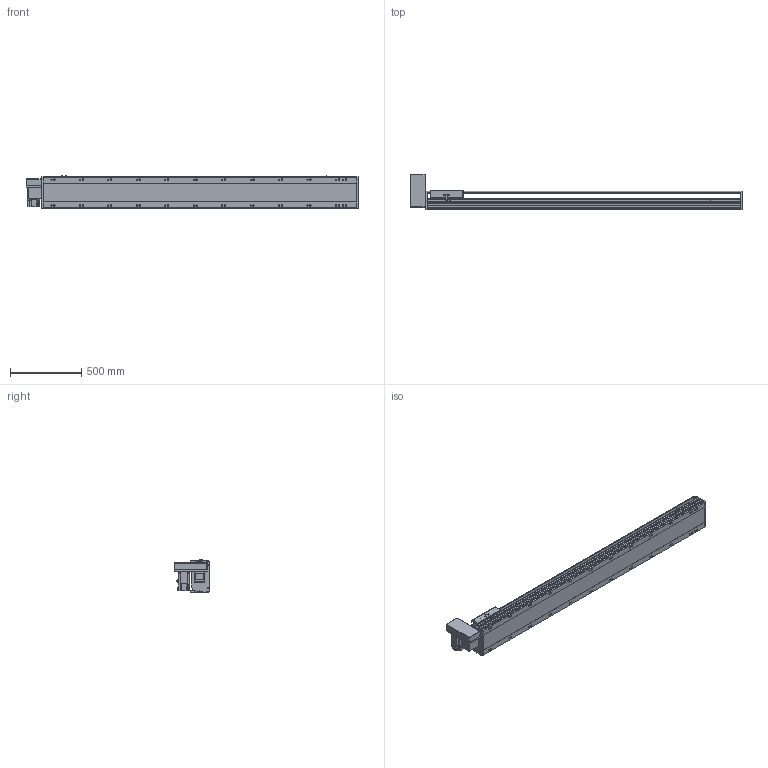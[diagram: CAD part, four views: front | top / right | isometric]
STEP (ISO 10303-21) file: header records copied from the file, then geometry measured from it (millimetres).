
FILE_DESCRIPTION(/* description */ ('STEP AP214'),/* implementation_level */ '2;1');
FILE_NAME(/* name */ 'PBS220-P40-S1850-RU-T75-C1-N(0)',/* time_stamp */ '2022-06-13T02:56:28+02:00',/* author */ ('License CC BY-ND 4.0'),/* organization */ ('CADENAS'),/* preprocessor_version */ 'ST-DEVELOPER v18.102',/* originating_system */ 'PARTsolutions',/* authorisation */ ' ');
FILE_SCHEMA (('AUTOMOTIVE_DESIGN {1 0 10303 214 3 1 1}'));
Length unit declared in the file: millimetre
Products named in the file (7): PBS220-P40-S1850-RU-T75-C1-N(0); PBS220_sensor; PBS220_plant; PBS220_sliser; T75-p1; PBS220T-RU_motors; PBS220-S1850()_body
Assembly tree (8 placements, depth 2):
  PBS220-P40-S1850-RU-T75-C1-N(0)
    PBS220_sensor  x3
    PBS220_plant
    PBS220_sliser
    T75-p1
    PBS220T-RU_motors
    PBS220-S1850()_body
Bounding box: 2334 x 247 x 238.5 mm (x, y, z)
Volume: 32899158.5 mm3; surface area: 3076203.4 mm2
Topology: 8 solids, 8 shells, 962 faces, 2508 edges, 1630 vertices
Faces by surface type: plane 614, cylinder 300, cone 48
Full cylindrical faces by diameter (mm): 2.013 x4, 4.5 x14, 4.917 x4, 6 x7, 6.647 x8, 8 x10, 8.376 x24, 8.5 x24, 10 x6, 14 x24, 38 x2, 40 x1, 70 x1
Entity records: 26877 total; most frequent: CARTESIAN_POINT 4756, DIRECTION 4671, ORIENTED_EDGE 4250, EDGE_CURVE 2125, AXIS2_PLACEMENT_3D 1659, VERTEX_POINT 1480, LINE 1353, VECTOR 1353
